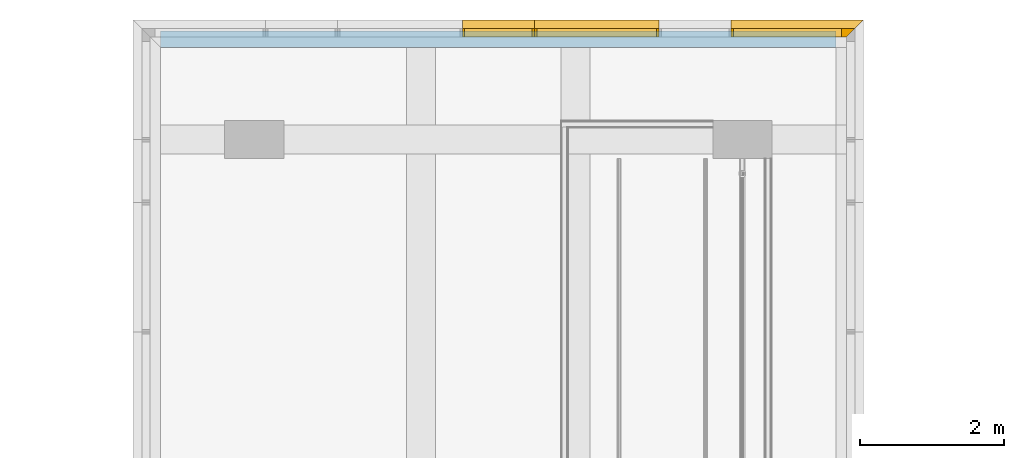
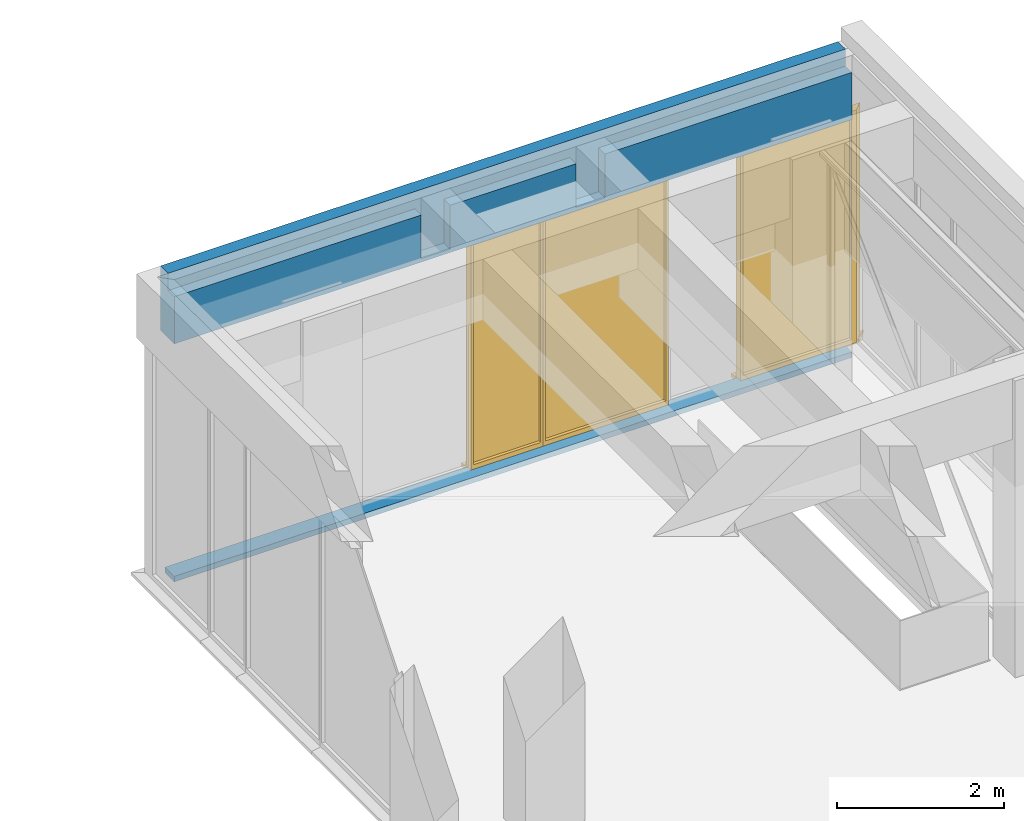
# One storey, part 47 of 117: 3 windows, 1 wall, 7 openings.
"""IFC2X3 building model written with IfcOpenShell, lengths in millimetres."""

from ifc_helpers import new_model, entity, si_unit, converted_unit, derived_unit, money_unit, direction, frame, origin_with_axes, place, context, subcontext, project, spatial, open_shell, faceted_brep, surface_model, source, transform, mapped, material, type_object, type_shapes, element, fill, save


model = new_model("IFC2X3")

# Units and contexts
model_context = context("Model", 3, precision=0.01, world=origin_with_axes(), true_north=direction((0.0, 1.0)))
body_context = subcontext(model_context, "Body", "Model", "MODEL_VIEW")
ifc_project = project(units=[si_unit("LENGTHUNIT", "METRE", prefix="MILLI"), si_unit("AREAUNIT", "SQUARE_METRE"), si_unit("VOLUMEUNIT", "CUBIC_METRE"), converted_unit("PLANEANGLEUNIT", "DEGREE", entity("IfcPlaneAngleMeasure", 0.0174532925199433), si_unit("PLANEANGLEUNIT", "RADIAN"), dimensions=[0, 0, 0, 0, 0, 0, 0]), money_unit("EUR"), converted_unit("TIMEUNIT", "Year", entity("IfcTimeMeasure", 31557600.0), si_unit("TIMEUNIT", "SECOND"), dimensions=[0, 0, 1, 0, 0, 0, 0]), si_unit("MASSUNIT", "GRAM", prefix="KILO"), si_unit("THERMODYNAMICTEMPERATUREUNIT", "DEGREE_CELSIUS"), si_unit("LUMINOUSINTENSITYUNIT", "LUMEN"), si_unit("ENERGYUNIT", "JOULE", prefix="MEGA"), derived_unit("THERMALCONDUCTANCEUNIT", [(si_unit("POWERUNIT", "WATT"), 1), (si_unit("LENGTHUNIT", "METRE"), -1), (si_unit("THERMODYNAMICTEMPERATUREUNIT", "KELVIN"), -1)]), derived_unit("SPECIFICHEATCAPACITYUNIT", [(si_unit("ENERGYUNIT", "JOULE"), 1), (si_unit("MASSUNIT", "GRAM", prefix="KILO"), -1), (si_unit("THERMODYNAMICTEMPERATUREUNIT", "KELVIN"), -1)]), derived_unit("MASSDENSITYUNIT", [(si_unit("MASSUNIT", "GRAM", prefix="KILO"), 1), (si_unit("VOLUMEUNIT", "CUBIC_METRE"), -1)])], contexts=[model_context])

# Site, building, storey
site_placement = place(None, origin_with_axes())
site = spatial("IfcSite", under=ifc_project, at=site_placement, Name="Site", CompositionType="ELEMENT")
building_placement = place(site_placement, origin_with_axes())
building = spatial("IfcBuilding", under=site, at=building_placement, Name="Naam gebouw", CompositionType="ELEMENT")
storey_placement = place(building_placement, frame((0.0, 0.0, 4150.0), z_axis=(0.0, 0.0, 1.0), x_axis=(1.0, 0.0, 0.0)))
storey = spatial("IfcBuildingStorey", under=building, at=storey_placement, Name="1e verdieping N", CompositionType="ELEMENT", Elevation=4150.0)

# Wall, openings, windows
ifc_material = material(Name="ALG - CONSTRUCTIEF")
wall_type = type_object("IfcWallType", Name="ALG - CONSTRUCTIEF 330", PredefinedType="NOTDEFINED")
wall_placement = place(storey_placement, frame((20536.00000000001, 56215.91242510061, -79.9999999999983), z_axis=(0.0, 0.0, 1.0), x_axis=(1.0, 0.0, 0.0)))
wall = element("IfcWall", 1, at=wall_placement, inside=storey, type_object=wall_type, material=ifc_material, Name="_Wand-x", context=body_context, shape_type="Brep", body=[
    faceted_brep([(1454.000000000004, -104.9999999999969, 0.0), (1454.000000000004, -104.9999999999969, 79.99999999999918), (7915.999999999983, -104.9999999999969, 79.99999999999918), (7915.999999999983, -104.9999999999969, 0.0), (0.0, -104.9999999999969, 0.0), (0.0, -104.9999999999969, 79.99999999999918), (1454.000000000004, -329.9999999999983, 79.99999999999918), (7915.999999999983, -329.9999999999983, 79.99999999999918), (9369.999999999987, -104.9999999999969, 79.99999999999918), (9369.999999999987, -104.9999999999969, 0.0), (9369.999999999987, -329.9999999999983, 0.0), (0.0, -329.9999999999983, 0.0), (0.0, -329.9999999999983, 79.99999999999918), (9369.999999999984, -329.9999999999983, 79.99999999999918)], [[[0, 1, 2, 3]], [[1, 0, 4, 5]], [[1, 6, 7, 2]], [[8, 9, 3, 2]], [[4, 0, 3, 9, 10, 11]], [[5, 4, 11, 12]], [[6, 1, 5, 12]], [[6, 12, 11, 10, 13, 7]], [[13, 8, 2, 7]], [[8, 13, 10, 9]]]),
    faceted_brep([(1454.000000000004, -329.9999999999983, 3479.999999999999), (1454.000000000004, -70.00000000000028, 3479.999999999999), (1454.000000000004, 0.0, 3479.999999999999), (7915.999999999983, 0.0, 3479.999999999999), (7915.999999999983, -70.00000000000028, 3479.999999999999), (7915.999999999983, -329.9999999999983, 3479.999999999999), (0.0, -329.9999999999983, 3479.999999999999), (0.0, -70.00000000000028, 3479.999999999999), (0.0, 0.0, 3479.999999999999), (0.0, 0.0, 4419.999999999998), (9369.999999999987, 0.0, 4419.999999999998), (9369.999999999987, 0.0, 3479.999999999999), (9369.999999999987, -70.00000000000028, 3479.999999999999), (9369.999999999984, -329.9999999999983, 3479.999999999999), (9369.999999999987, -329.9968579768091, 4169.999999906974), (5955.999999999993, -329.9968579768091, 4169.999999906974), (5955.999999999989, -329.9999999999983, 3529.999999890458), (5555.99999999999, -329.9999999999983, 3529.999999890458), (5555.999999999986, -329.9968579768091, 4169.999999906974), (3813.999999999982, -329.9968579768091, 4169.999999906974), (3813.999999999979, -329.9999999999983, 3529.999999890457), (3413.99999999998, -329.9999999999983, 3529.999999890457), (3413.999999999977, -329.9968579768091, 4169.999999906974), (0.0, -329.9968579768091, 4169.999999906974), (0.0, -179.9968579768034, 4169.999999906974), (0.0, -179.9968579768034, 4419.999999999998), (9369.999999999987, -179.9968579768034, 4419.999999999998), (9369.999999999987, -179.9968579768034, 4169.999999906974), (5955.999999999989, -179.9968579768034, 4169.999999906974), (5955.999999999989, -179.9968579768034, 3529.999999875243), (5555.99999999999, -179.9968579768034, 3529.999999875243), (5555.99999999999, -179.9968579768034, 4169.999999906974), (3813.999999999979, -179.9968579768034, 4169.999999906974), (3813.999999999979, -179.9999999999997, 3529.999999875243), (3413.99999999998, -179.9999999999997, 3529.999999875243), (3413.99999999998, -179.9968579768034, 4169.999999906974)], [[[0, 1, 2, 3, 4, 5]], [[1, 0, 6, 7]], [[8, 2, 1, 7]], [[2, 8, 9, 10, 11, 3]], [[3, 11, 12, 4]], [[12, 13, 5, 4]], [[6, 0, 5, 13, 14, 15, 16, 17, 18, 19, 20, 21, 22, 23]], [[7, 6, 23, 24, 25, 9, 8]], [[26, 10, 9, 25]], [[13, 12, 11, 10, 26, 27, 14]], [[15, 14, 27, 28]], [[28, 29, 16, 15]], [[16, 29, 30, 17]], [[18, 17, 30, 31]], [[31, 32, 19, 18]], [[32, 33, 20, 19]], [[20, 33, 34, 21]], [[22, 21, 34, 35]], [[35, 24, 23, 22]], [[30, 29, 28, 27, 26, 25, 24, 35, 34, 33, 32, 31]]]),
])
opening_1_placement = place(wall_placement, frame((8715.999999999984, 0.0, 79.99999999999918), z_axis=(0.0, 0.0, 1.0), x_axis=(1.0, 0.0, 0.0)))
opening_1 = element("IfcOpeningElement", 2, at=opening_1_placement, cuts=wall, Name="_Merk-030sp", context=body_context, shape_type="Brep", body=[
    faceted_brep([(984.0000000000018, 0.0, 0.0), (984.0000000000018, 0.9999999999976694, 0.0), (984.0000000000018, 0.9999999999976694, 3400.0), (984.0000000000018, 0.0, 3400.0), (984.9999999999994, 0.9999999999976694, 0.0), (-800.0000000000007, 0.9999999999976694, 0.0), (-800.0000000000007, 0.9999999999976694, 3400.0), (984.9999999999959, 0.9999999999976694, -80.00000000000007), (-800.0000000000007, 0.9999999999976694, -80.00000000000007), (-800.0000000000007, -70.00000000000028, 3400.0), (-800.0000000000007, -330.999999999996, 3400.0), (653.0000000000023, -330.999999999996, 3400.0), (653.0000000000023, -330.999999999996, 0.0), (878.9999999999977, -104.9999999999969, 0.0), (878.9999999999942, -104.9999999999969, -80.00000000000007), (-800.0000000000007, -70.00000000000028, 0.0), (-800.0000000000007, -104.9999999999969, -80.00000000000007), (-800.0000000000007, -104.9999999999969, 0.0), (-800.0000000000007, -330.999999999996, 0.0)], [[[0, 1, 2, 3]], [[1, 0, 4]], [[5, 6, 2, 1, 4, 7, 8]], [[3, 2, 6, 9, 10, 11]], [[3, 11, 12, 13, 14, 7, 4, 0]], [[5, 15, 9, 6]], [[14, 16, 8, 7]], [[15, 5, 8, 16, 17, 18, 10, 9]], [[10, 18, 12, 11]], [[17, 13, 12, 18]], [[13, 17, 16, 14]]]),
])
opening_2_placement = place(wall_placement, frame((3319.500000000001, 0.0, 79.99999999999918), z_axis=(0.0, 0.0, 1.0), x_axis=(1.0, 0.0, 0.0)))
element("IfcOpeningElement", 3, at=opening_2_placement, cuts=wall, Name="_Merk-032", context=body_context, shape_type="Brep", body=[
    faceted_brep([(865.5000000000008, -70.00000000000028, 0.0), (865.5000000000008, 0.9999999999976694, 0.0), (865.5000000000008, 0.9999999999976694, 3400.0), (865.5000000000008, -70.00000000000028, 3400.0), (865.5000000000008, -330.999999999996, 3400.0), (865.5000000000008, -330.999999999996, 0.0), (865.5000000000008, -104.9999999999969, 0.0), (865.5000000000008, -104.9999999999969, -80.00000000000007), (865.5000000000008, 0.9999999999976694, -80.00000000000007), (-865.5000000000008, 0.9999999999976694, 0.0), (-865.5000000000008, 0.9999999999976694, 3400.0), (-865.5000000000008, 0.9999999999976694, -80.00000000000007), (-865.5000000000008, -70.00000000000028, 3400.0), (-865.5000000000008, -330.999999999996, 3400.0), (-865.5000000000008, -330.999999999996, 0.0), (-865.5000000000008, -104.9999999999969, 0.0), (-865.5000000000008, -104.9999999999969, -80.00000000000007), (-865.5000000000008, -70.00000000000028, 0.0)], [[[0, 1, 2, 3]], [[1, 0, 3, 4, 5, 6, 7, 8]], [[9, 10, 2, 1, 8, 11]], [[3, 2, 10, 12, 13, 4]], [[13, 14, 5, 4]], [[15, 6, 5, 14]], [[6, 15, 16, 7]], [[7, 16, 11, 8]], [[9, 17, 12, 10]], [[17, 9, 11, 16, 15, 14, 13, 12]]]),
])
opening_3_placement = place(wall_placement, frame((6050.499999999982, 0.0, 79.99999999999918), z_axis=(0.0, 0.0, 1.0), x_axis=(1.0, 0.0, 0.0)))
opening_3 = element("IfcOpeningElement", 4, at=opening_3_placement, cuts=wall, Name="_Merk-032", context=body_context, shape_type="Brep", body=[
    faceted_brep([(865.5000000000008, -70.00000000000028, 0.0), (865.5000000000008, 0.9999999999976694, 0.0), (865.5000000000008, 0.9999999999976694, 3400.0), (865.5000000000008, -70.00000000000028, 3400.0), (865.5000000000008, -330.999999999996, 3400.0), (865.5000000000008, -330.999999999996, 0.0), (865.5000000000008, -104.9999999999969, 0.0), (865.5000000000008, -104.9999999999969, -80.00000000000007), (865.5000000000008, 0.9999999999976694, -80.00000000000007), (-865.5000000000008, 0.9999999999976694, 0.0), (-865.5000000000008, 0.9999999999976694, 3400.0), (-865.5000000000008, 0.9999999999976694, -80.00000000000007), (-865.5000000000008, -70.00000000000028, 3400.0), (-865.5000000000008, -330.999999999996, 3400.0), (-865.5000000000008, -330.999999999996, 0.0), (-865.5000000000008, -104.9999999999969, 0.0), (-865.5000000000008, -104.9999999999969, -80.00000000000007), (-865.5000000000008, -70.00000000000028, 0.0)], [[[0, 1, 2, 3]], [[1, 0, 3, 4, 5, 6, 7, 8]], [[9, 10, 2, 1, 8, 11]], [[3, 2, 10, 12, 13, 4]], [[13, 14, 5, 4]], [[15, 6, 5, 14]], [[6, 15, 16, 7]], [[7, 16, 11, 8]], [[9, 17, 12, 10]], [[17, 9, 11, 16, 15, 14, 13, 12]]]),
])
opening_4_placement = place(wall_placement, frame((4684.999999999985, 0.0, 79.99999999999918), z_axis=(0.0, 0.0, 1.0), x_axis=(1.0, 0.0, 0.0)))
opening_4 = element("IfcOpeningElement", 5, at=opening_4_placement, cuts=wall, Name="_Merk-031", context=body_context, shape_type="Brep", body=[
    faceted_brep([(500.0, -70.00000000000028, 0.0), (500.0, 0.9999999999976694, 0.0), (500.0, 0.9999999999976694, 3400.0), (500.0, -70.00000000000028, 3400.0), (500.0, -330.999999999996, 3400.0), (500.0, -330.999999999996, 0.0), (500.0, -104.9999999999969, 0.0), (500.0, -104.9999999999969, -80.00000000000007), (500.0, 0.9999999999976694, -80.00000000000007), (-500.0, 0.9999999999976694, 0.0), (-500.0, 0.9999999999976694, 3400.0), (-500.0, 0.9999999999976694, -80.00000000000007), (-500.0, -70.00000000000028, 3400.0), (-500.0, -330.999999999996, 3400.0), (-500.0, -330.999999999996, 0.0), (-500.0, -104.9999999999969, 0.0), (-500.0, -104.9999999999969, -80.00000000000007), (-500.0, -70.00000000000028, 0.0)], [[[0, 1, 2, 3]], [[1, 0, 3, 4, 5, 6, 7, 8]], [[9, 10, 2, 1, 8, 11]], [[3, 2, 10, 12, 13, 4]], [[13, 14, 5, 4]], [[15, 6, 5, 14]], [[6, 15, 16, 7]], [[7, 16, 11, 8]], [[9, 17, 12, 10]], [[17, 9, 11, 16, 15, 14, 13, 12]]]),
])
opening_5_placement = place(wall_placement, frame((1954.000000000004, 0.0, 79.99999999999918), z_axis=(0.0, 0.0, 1.0), x_axis=(1.0, 0.0, 0.0)))
element("IfcOpeningElement", 6, at=opening_5_placement, cuts=wall, Name="_Merk-031", context=body_context, shape_type="Brep", body=[
    faceted_brep([(500.0, -70.00000000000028, 0.0), (500.0, 0.9999999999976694, 0.0), (500.0, 0.9999999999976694, 3400.0), (500.0, -70.00000000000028, 3400.0), (500.0, -330.999999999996, 3400.0), (500.0, -330.999999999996, 0.0), (500.0, -104.9999999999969, 0.0), (500.0, -104.9999999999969, -80.00000000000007), (500.0, 0.9999999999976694, -80.00000000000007), (-500.0, 0.9999999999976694, 0.0), (-500.0, 0.9999999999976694, 3400.0), (-500.0, 0.9999999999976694, -80.00000000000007), (-500.0, -70.00000000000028, 3400.0), (-500.0, -330.999999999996, 3400.0), (-500.0, -330.999999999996, 0.0), (-500.0, -104.9999999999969, 0.0), (-500.0, -104.9999999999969, -80.00000000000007), (-500.0, -70.00000000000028, 0.0)], [[[0, 1, 2, 3]], [[1, 0, 3, 4, 5, 6, 7, 8]], [[9, 10, 2, 1, 8, 11]], [[3, 2, 10, 12, 13, 4]], [[13, 14, 5, 4]], [[15, 6, 5, 14]], [[6, 15, 16, 7]], [[7, 16, 11, 8]], [[9, 17, 12, 10]], [[17, 9, 11, 16, 15, 14, 13, 12]]]),
])
opening_6_placement = place(wall_placement, frame((7415.999999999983, 0.0, 79.99999999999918), z_axis=(0.0, 0.0, 1.0), x_axis=(1.0, 0.0, 0.0)))
element("IfcOpeningElement", 7, at=opening_6_placement, cuts=wall, Name="_Merk-031", context=body_context, shape_type="Brep", body=[
    faceted_brep([(500.0, -70.00000000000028, 0.0), (500.0, 0.9999999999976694, 0.0), (500.0, 0.9999999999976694, 3400.0), (500.0, -70.00000000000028, 3400.0), (500.0, -330.999999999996, 3400.0), (500.0, -330.999999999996, 0.0), (500.0, -104.9999999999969, 0.0), (500.0, -104.9999999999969, -80.00000000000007), (500.0, 0.9999999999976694, -80.00000000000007), (-500.0, 0.9999999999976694, 0.0), (-500.0, 0.9999999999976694, 3400.0), (-500.0, 0.9999999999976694, -80.00000000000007), (-500.0, -70.00000000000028, 3400.0), (-500.0, -330.999999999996, 3400.0), (-500.0, -330.999999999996, 0.0), (-500.0, -104.9999999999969, 0.0), (-500.0, -104.9999999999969, -80.00000000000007), (-500.0, -70.00000000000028, 0.0)], [[[0, 1, 2, 3]], [[1, 0, 3, 4, 5, 6, 7, 8]], [[9, 10, 2, 1, 8, 11]], [[3, 2, 10, 12, 13, 4]], [[13, 14, 5, 4]], [[15, 6, 5, 14]], [[6, 15, 16, 7]], [[7, 16, 11, 8]], [[9, 17, 12, 10]], [[17, 9, 11, 16, 15, 14, 13, 12]]]),
])
opening_7_placement = place(wall_placement, frame((654.0000000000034, 0.0, 79.99999999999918), z_axis=(0.0, 0.0, 1.0), x_axis=(1.0, 0.0, 0.0)))
element("IfcOpeningElement", 8, at=opening_7_placement, cuts=wall, Name="_Merk-030", context=body_context, shape_type="Brep", body=[
    faceted_brep([(800.0000000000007, -70.00000000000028, 0.0), (800.0000000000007, 0.9999999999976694, 0.0), (800.0000000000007, 0.9999999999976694, 3400.0), (800.0000000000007, -70.00000000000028, 3400.0), (800.0000000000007, -330.999999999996, 3400.0), (800.0000000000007, -330.999999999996, 0.0), (800.0000000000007, -104.9999999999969, 0.0), (800.0000000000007, -104.9999999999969, -80.00000000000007), (800.0000000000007, 0.9999999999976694, -80.00000000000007), (-984.0000000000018, 0.9999999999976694, 0.0), (-984.0000000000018, 0.9999999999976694, 3400.0), (-984.9999999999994, 0.9999999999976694, -80.00000000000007), (-984.9999999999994, 0.9999999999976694, 0.0), (-984.0000000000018, 0.0, 3400.0), (-653.0000000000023, -330.999999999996, 3400.0), (-653.0000000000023, -330.999999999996, 0.0), (-878.9999999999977, -104.9999999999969, 0.0), (-878.9999999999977, -104.9999999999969, -80.00000000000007), (-984.0000000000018, 0.0, 0.0)], [[[0, 1, 2, 3]], [[1, 0, 3, 4, 5, 6, 7, 8]], [[9, 10, 2, 1, 8, 11, 12]], [[3, 2, 10, 13, 14, 4]], [[15, 5, 4, 14]], [[16, 6, 5, 15]], [[6, 16, 17, 7]], [[7, 17, 11, 8]], [[9, 18, 13, 10]], [[11, 17, 16, 15, 14, 13, 18, 12]], [[18, 9, 12]]]),
])
window_style_1 = type_object("IfcWindowStyle", Name="R1 26", ConstructionType="NOTDEFINED", OperationType="SINGLE_PANEL", ParameterTakesPrecedence=False, Sizeable=False)
shared_shape_1 = source(origin_with_axes(), body_context, "Body", "SurfaceModel", [
    faceted_brep([(500.0, -79.00000000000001, 0.0), (-500.0, -79.00000000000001, 0.0), (-500.0, -94.0, 0.0), (500.0, -94.0, 0.0), (500.0, -79.0, -80.00000000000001), (-500.0, -79.0, -79.99999999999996), (-500.0, -199.78125, -79.99999999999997), (-500.0, -201.1209959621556, -74.99999999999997), (-500.0, -204.78125, -71.33974596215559), (-500.0, -209.78125, -69.99999999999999), (-500.0, -214.78125, -71.33974596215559), (-500.0, -218.4415040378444, -74.99999999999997), (-500.0, -219.78125, -79.99999999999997), (-500.0, -234.0, -79.99999999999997), (-500.0, -234.0, -34.68577729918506), (-500.0, -94.0, -9.999999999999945), (500.0, -94.0, -10.00000000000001), (500.0, -234.0, -34.68577729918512), (500.0, -234.0, -80.00000000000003), (500.0, -219.78125, -80.00000000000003), (500.0, -218.4415040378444, -75.00000000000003), (500.0, -214.78125, -71.33974596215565), (500.0, -209.78125, -70.00000000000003), (500.0, -204.78125, -71.33974596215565), (500.0, -201.1209959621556, -75.00000000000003), (500.0, -199.78125, -80.00000000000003)], [[[0, 1, 2, 3]], [[4, 5, 1, 0]], [[1, 5, 6, 7, 8, 9, 10, 11, 12, 13, 14, 15, 2]], [[3, 2, 15, 16]], [[0, 3, 16, 17, 18, 19, 20, 21, 22, 23, 24, 25, 4]], [[25, 6, 5, 4]], [[24, 7, 6, 25]], [[23, 8, 7, 24]], [[22, 9, 8, 23]], [[21, 10, 9, 22]], [[20, 11, 10, 21]], [[19, 12, 11, 20]], [[18, 13, 12, 19]], [[17, 14, 13, 18]], [[16, 15, 14, 17]]]),
    faceted_brep([(466.5, -114.0000000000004, 3333.0), (500.0, -114.0000000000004, 3333.0), (500.0, 0.0, 3333.0), (466.5, 0.0, 3333.0), (466.5, -114.0, 66.99999999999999), (500.0, -114.0, 66.99999999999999), (500.0, 0.0, 67.0), (466.5, 0.0, 67.0)], [[[0, 1, 2, 3]], [[0, 4, 5, 1]], [[1, 5, 6, 2]], [[3, 2, 6, 7]], [[4, 0, 3, 7]], [[5, 4, 7, 6]]]),
    faceted_brep([(-466.5, -114.0, 66.99999999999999), (-500.0, -114.0, 66.99999999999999), (-500.0, 0.0, 67.0), (-466.5, 0.0, 67.0), (-466.5, -114.0000000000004, 3333.0), (-500.0, -114.0000000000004, 3333.0), (-500.0, 0.0, 3333.0), (-466.5, 0.0, 3333.0)], [[[0, 1, 2, 3]], [[0, 4, 5, 1]], [[1, 5, 6, 2]], [[3, 2, 6, 7]], [[4, 0, 3, 7]], [[5, 4, 7, 6]]]),
    faceted_brep([(466.5, -114.0, 66.99999999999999), (500.0, -114.0, 66.99999999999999), (500.0, 0.0, 67.0), (466.5, 0.0, 67.0), (-466.5, -114.0, 66.99999999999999), (-500.0, -114.0, 66.99999999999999), (-500.0, -114.0, 0.0), (500.0, -114.0, 0.0), (500.0, 0.0, 0.0), (-500.0, 0.0, 0.0), (-500.0, 0.0, 67.0), (-466.5, 0.0, 67.0)], [[[0, 1, 2, 3]], [[0, 4, 5, 6, 7, 1]], [[1, 7, 8, 2]], [[3, 2, 8, 9, 10, 11]], [[4, 0, 3, 11]], [[5, 4, 11, 10]], [[6, 5, 10, 9]], [[7, 6, 9, 8]]]),
    faceted_brep([(-466.5, -114.0000000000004, 3333.0), (-500.0, -114.0000000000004, 3333.0), (-500.0, 0.0, 3333.0), (-466.5, 0.0, 3333.0), (466.5, -114.0000000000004, 3333.0), (500.0, -114.0000000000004, 3333.0), (500.0, -114.0000000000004, 3400.0), (-500.0, -114.0000000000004, 3400.0), (-500.0, 0.0, 3400.0), (500.0, 0.0, 3400.0), (500.0, 0.0, 3333.0), (466.5, 0.0, 3333.0)], [[[0, 1, 2, 3]], [[0, 4, 5, 6, 7, 1]], [[1, 7, 8, 2]], [[3, 2, 8, 9, 10, 11]], [[4, 0, 3, 11]], [[5, 4, 11, 10]], [[6, 5, 10, 9]], [[7, 6, 9, 8]]]),
    surface_model("IfcShellBasedSurfaceModel", [(466.5, -64.0, 66.99999999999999), (466.5, -64.0000000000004, 3333.0), (-466.5, -64.0000000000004, 3333.0), (-466.5, -64.0, 66.99999999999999)], [open_shell([[[0, 1, 2, 3]]])]),
    surface_model("IfcShellBasedSurfaceModel", [(466.5, -44.0, 66.99999999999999), (-466.5, -44.0, 66.99999999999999), (-466.5, -44.0000000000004, 3333.0), (466.5, -44.0000000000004, 3333.0)], [open_shell([[[0, 1, 2, 3]]])]),
])
type_shapes(window_style_1, [shared_shape_1])
window_1_placement = place(opening_4_placement, frame((500.0, 0.0, 0.0), z_axis=(0.0, 0.0, 1.0), x_axis=(-1.0, 0.0, 0.0)))
window_1 = element("IfcWindow", 9, at=window_1_placement, inside=storey, type_object=window_style_1, Name="_Merk-031", ObjectType="WINDOW", OverallHeight=3400.0, OverallWidth=1000.0, context=body_context, shape_type="MappedRepresentation", body=[
    mapped(shared_shape_1, transform((500.0, 183.9999999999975, 0.0))),
])
fill(opening_4, window_1)
window_style_2 = type_object("IfcWindowStyle", Name="Rnx verticaal 26", ConstructionType="NOTDEFINED", OperationType="SINGLE_PANEL", ParameterTakesPrecedence=False, Sizeable=False)
shared_shape_2 = source(origin_with_axes(), body_context, "Body", "SurfaceModel", [
    faceted_brep([(865.5, -79.00000000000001, 0.0), (-865.5, -79.00000000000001, 0.0), (-865.5, -94.0, 0.0), (865.5, -94.0, 0.0), (865.5, -79.0, -80.00000000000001), (-865.5, -79.0, -79.9999999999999), (-865.5, -199.78125, -79.99999999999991), (-865.5, -201.1209959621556, -74.99999999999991), (-865.5, -204.78125, -71.33974596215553), (-865.5, -209.78125, -69.99999999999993), (-865.5, -214.78125, -71.33974596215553), (-865.5, -218.4415040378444, -74.99999999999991), (-865.5, -219.78125, -79.99999999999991), (-865.5, -234.0, -79.99999999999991), (-865.5, -234.0, -34.68577729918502), (-865.5, -94.0, -9.999999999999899), (865.5, -94.0, -10.00000000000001), (865.5, -234.0, -34.68577729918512), (865.5, -234.0, -80.00000000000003), (865.5, -219.78125, -80.00000000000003), (865.5, -218.4415040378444, -75.00000000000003), (865.5, -214.78125, -71.33974596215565), (865.5, -209.78125, -70.00000000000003), (865.5, -204.78125, -71.33974596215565), (865.5, -201.1209959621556, -75.00000000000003), (865.5, -199.78125, -80.00000000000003)], [[[0, 1, 2, 3]], [[4, 5, 1, 0]], [[1, 5, 6, 7, 8, 9, 10, 11, 12, 13, 14, 15, 2]], [[3, 2, 15, 16]], [[0, 3, 16, 17, 18, 19, 20, 21, 22, 23, 24, 25, 4]], [[25, 6, 5, 4]], [[24, 7, 6, 25]], [[23, 8, 7, 24]], [[22, 9, 8, 23]], [[21, 10, 9, 22]], [[20, 11, 10, 21]], [[19, 12, 11, 20]], [[18, 13, 12, 19]], [[17, 14, 13, 18]], [[16, 15, 14, 17]]]),
    faceted_brep([(832.0000000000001, -114.0000000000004, 3333.0), (865.5, -114.0000000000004, 3333.0), (865.5, 0.0, 3333.0), (832.0000000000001, 0.0, 3333.0), (832.0000000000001, -114.0, 66.99999999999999), (865.5, -114.0, 66.99999999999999), (865.5, 0.0, 67.0), (832.0000000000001, 0.0, 67.0)], [[[0, 1, 2, 3]], [[0, 4, 5, 1]], [[1, 5, 6, 2]], [[3, 2, 6, 7]], [[4, 0, 3, 7]], [[5, 4, 7, 6]]]),
    faceted_brep([(-832.0000000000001, -114.0, 66.99999999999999), (-865.5, -114.0, 66.99999999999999), (-865.5, 0.0, 67.0), (-832.0000000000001, 0.0, 67.0), (-832.0000000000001, -114.0000000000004, 3333.0), (-865.5, -114.0000000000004, 3333.0), (-865.5, 0.0, 3333.0), (-832.0000000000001, 0.0, 3333.0)], [[[0, 1, 2, 3]], [[0, 4, 5, 1]], [[1, 5, 6, 2]], [[3, 2, 6, 7]], [[4, 0, 3, 7]], [[5, 4, 7, 6]]]),
    faceted_brep([(-832.0000000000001, -114.0000000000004, 3333.0), (-865.5, -114.0000000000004, 3333.0), (-865.5, 0.0, 3333.0), (-832.0000000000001, 0.0, 3333.0), (832.0000000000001, -114.0000000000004, 3333.0), (865.5, -114.0000000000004, 3333.0), (865.5, -114.0000000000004, 3400.0), (-865.5, -114.0000000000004, 3400.0), (-865.5, 0.0, 3400.0), (865.5, 0.0, 3400.0), (865.5, 0.0, 3333.0), (832.0000000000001, 0.0, 3333.0)], [[[0, 1, 2, 3]], [[0, 4, 5, 6, 7, 1]], [[1, 7, 8, 2]], [[3, 2, 8, 9, 10, 11]], [[4, 0, 3, 11]], [[5, 4, 11, 10]], [[6, 5, 10, 9]], [[7, 6, 9, 8]]]),
    faceted_brep([(832.0000000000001, -114.0, 66.99999999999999), (865.5, -114.0, 66.99999999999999), (865.5, 0.0, 67.0), (832.0000000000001, 0.0, 67.0), (-832.0000000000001, -114.0, 66.99999999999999), (-865.5, -114.0, 66.99999999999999), (-865.5, -114.0, 0.0), (865.5, -114.0, 0.0), (865.5, 0.0, 0.0), (-865.5, 0.0, 0.0), (-865.5, 0.0, 67.0), (-832.0000000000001, 0.0, 67.0)], [[[0, 1, 2, 3]], [[0, 4, 5, 6, 7, 1]], [[1, 7, 8, 2]], [[3, 2, 8, 9, 10, 11]], [[4, 0, 3, 11]], [[5, 4, 11, 10]], [[6, 5, 10, 9]], [[7, 6, 9, 8]]]),
    surface_model("IfcShellBasedSurfaceModel", [(832.0000000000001, -64.0, 66.99999999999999), (832.0000000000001, -64.0000000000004, 3333.0), (-832.0000000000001, -64.0000000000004, 3333.0), (-832.0000000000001, -64.0, 66.99999999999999)], [open_shell([[[0, 1, 2, 3]]])]),
    surface_model("IfcShellBasedSurfaceModel", [(832.0000000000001, -44.0, 66.99999999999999), (-832.0000000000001, -44.0, 66.99999999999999), (-832.0000000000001, -44.0000000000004, 3333.0), (832.0000000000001, -44.0000000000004, 3333.0)], [open_shell([[[0, 1, 2, 3]]])]),
])
type_shapes(window_style_2, [shared_shape_2])
window_2_placement = place(opening_3_placement, frame((865.5000000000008, 0.0, 0.0), z_axis=(0.0, 0.0, 1.0), x_axis=(-1.0, 0.0, 0.0)))
window_2 = element("IfcWindow", 10, at=window_2_placement, inside=storey, type_object=window_style_2, Name="_Merk-032", ObjectType="WINDOW", OverallHeight=3400.0, OverallWidth=1731.0, context=body_context, shape_type="MappedRepresentation", body=[
    mapped(shared_shape_2, transform((865.5000000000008, 183.9999999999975, 0.0))),
])
fill(opening_3, window_2)
window_style_3 = type_object("IfcWindowStyle", Name="Rnx verticaal 26", ConstructionType="NOTDEFINED", OperationType="SINGLE_PANEL", ParameterTakesPrecedence=False, Sizeable=False)
window_3_placement = place(opening_1_placement, frame((800.0000000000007, 0.0, 0.0), z_axis=(0.0, 0.0, 1.0), x_axis=(-1.0, 0.0, 0.0)))
window_3 = element("IfcWindow", 11, at=window_3_placement, inside=storey, type_object=window_style_3, Name="_Merk-030sp", ObjectType="WINDOW", OverallHeight=3400.0, OverallWidth=1600.0, context=body_context, shape_type="SurfaceModel", body=[
    faceted_brep([(1600.000000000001, 104.9999999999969, 0.0), (-79.00000000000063, 104.9999999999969, 0.0), (-93.99999999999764, 89.9999999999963, 0.0), (1600.000000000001, 89.9999999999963, 0.0), (1600.000000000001, 104.9999999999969, -80.00000000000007), (-79.00000000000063, 104.9999999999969, -80.00000000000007), (-199.7812500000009, -15.78125000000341, -80.00000000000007), (-201.1209959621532, -17.12099596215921, -75.00000000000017), (-204.7812499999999, -20.78124999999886, -71.3397459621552), (-209.7812499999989, -25.78125000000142, -70.00000000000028), (-214.7812499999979, -30.78125000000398, -71.3397459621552), (-218.4415040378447, -34.44150403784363, -75.00000000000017), (-219.7812500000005, -35.78124999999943, -80.00000000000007), (-233.9999999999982, -50.00000000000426, -80.00000000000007), (-233.9999999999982, -50.00000000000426, -34.68577729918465), (-93.99999999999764, 89.9999999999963, -9.999999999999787), (1600.000000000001, 89.9999999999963, -9.999999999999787), (1600.000000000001, -50.00000000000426, -34.68577729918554), (1600.000000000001, -50.00000000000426, -80.00000000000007), (1600.000000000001, -35.78124999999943, -80.00000000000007), (1600.000000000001, -34.44150403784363, -75.00000000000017), (1600.000000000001, -30.78125000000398, -71.33974596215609), (1600.000000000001, -25.78125000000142, -70.00000000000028), (1600.000000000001, -20.78125000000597, -71.33974596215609), (1600.000000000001, -17.12099596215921, -75.00000000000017), (1600.000000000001, -15.78125000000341, -80.00000000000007)], [[[0, 1, 2, 3]], [[4, 5, 1, 0]], [[1, 5, 6, 7, 8, 9, 10, 11, 12, 13, 14, 15, 2]], [[3, 2, 15, 16]], [[0, 3, 16, 17, 18, 19, 20, 21, 22, 23, 24, 25, 4]], [[25, 6, 5, 4]], [[24, 7, 6, 25]], [[23, 8, 7, 24]], [[22, 9, 8, 23]], [[21, 10, 9, 22]], [[20, 11, 10, 21]], [[19, 12, 11, 20]], [[18, 13, 12, 19]], [[17, 14, 13, 18]], [[16, 15, 14, 17]]]),
    faceted_brep([(1566.500000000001, 70.00000000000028, 3332.999999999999), (1600.000000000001, 70.00000000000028, 3332.999999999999), (1600.000000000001, 183.9999999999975, 3332.999999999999), (1566.500000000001, 183.9999999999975, 3332.999999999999), (1566.500000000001, 70.00000000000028, 67.00000000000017), (1600.000000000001, 70.00000000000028, 67.00000000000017), (1600.000000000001, 183.9999999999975, 67.00000000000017), (1566.500000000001, 183.9999999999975, 67.00000000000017)], [[[0, 1, 2, 3]], [[0, 4, 5, 1]], [[1, 5, 6, 2]], [[3, 2, 6, 7]], [[4, 0, 3, 7]], [[5, 4, 7, 6]]]),
    faceted_brep([(-114.0000000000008, 70.00000000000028, 3332.999999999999), (-114.0000000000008, 70.00000000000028, 67.00000000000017), (67.00000000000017, 70.00000000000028, 67.00000000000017), (67.00000000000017, 70.00000000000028, 3332.999999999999), (0.0, 183.9999999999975, 3332.999999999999), (0.0, 183.9999999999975, 67.00000000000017), (67.00000000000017, 183.9999999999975, 67.00000000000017), (67.00000000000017, 183.9999999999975, 3332.999999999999)], [[[0, 1, 2, 3]], [[1, 0, 4, 5]], [[1, 5, 6, 2]], [[3, 2, 6, 7]], [[4, 0, 3, 7]], [[6, 5, 4, 7]]]),
    faceted_brep([(67.00000000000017, 70.00000000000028, 3332.999999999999), (-114.0000000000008, 70.00000000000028, 3332.999999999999), (0.0, 183.9999999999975, 3332.999999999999), (67.00000000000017, 183.9999999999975, 3332.999999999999), (1566.500000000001, 70.00000000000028, 3332.999999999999), (1600.000000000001, 70.00000000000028, 3332.999999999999), (1600.000000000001, 70.00000000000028, 3400.0), (-114.0000000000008, 70.00000000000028, 3400.0), (0.0, 183.9999999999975, 3400.0), (1600.000000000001, 183.9999999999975, 3400.0), (1600.000000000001, 183.9999999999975, 3332.999999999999), (1566.500000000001, 183.9999999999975, 3332.999999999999)], [[[0, 1, 2, 3]], [[1, 0, 4, 5, 6, 7]], [[1, 7, 8, 2]], [[3, 2, 8, 9, 10, 11]], [[4, 0, 3, 11]], [[4, 11, 10, 5]], [[6, 5, 10, 9]], [[8, 7, 6, 9]]]),
    faceted_brep([(0.0, 183.9999999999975, 0.0), (-114.0000000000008, 70.00000000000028, 0.0), (-114.0000000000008, 70.00000000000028, 67.00000000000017), (0.0, 183.9999999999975, 67.00000000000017), (1600.000000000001, 183.9999999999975, 0.0), (1600.000000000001, 70.00000000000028, 0.0), (1600.000000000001, 70.00000000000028, 67.00000000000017), (1566.500000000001, 70.00000000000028, 67.00000000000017), (67.00000000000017, 70.00000000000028, 67.00000000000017), (67.00000000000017, 183.9999999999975, 67.00000000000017), (1566.500000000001, 183.9999999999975, 67.00000000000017), (1600.000000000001, 183.9999999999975, 67.00000000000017)], [[[0, 1, 2, 3]], [[1, 0, 4, 5]], [[2, 1, 5, 6, 7, 8]], [[9, 3, 2, 8]], [[0, 3, 9, 10, 11, 4]], [[6, 5, 4, 11]], [[7, 6, 11, 10]], [[8, 7, 10, 9]]]),
    surface_model("IfcShellBasedSurfaceModel", [(1566.500000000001, 119.9999999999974, 67.00000000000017), (1566.500000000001, 119.9999999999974, 3333.0), (67.00000000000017, 119.9999999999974, 3333.0), (67.00000000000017, 119.9999999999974, 67.00000000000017)], [open_shell([[[0, 1, 2, 3]]])]),
    surface_model("IfcShellBasedSurfaceModel", [(1566.500000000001, 140.0000000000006, 67.00000000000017), (67.00000000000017, 140.0000000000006, 67.00000000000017), (67.00000000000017, 139.9999999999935, 3333.0), (1566.500000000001, 139.9999999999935, 3333.0)], [open_shell([[[0, 1, 2, 3]]])]),
])
fill(opening_1, window_3)

save(model, "model.ifc")
